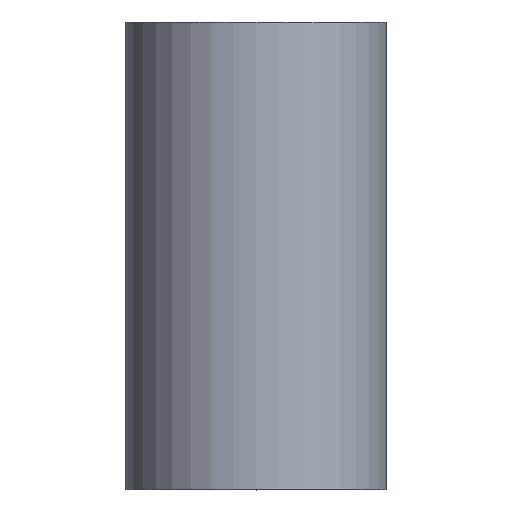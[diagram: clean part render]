
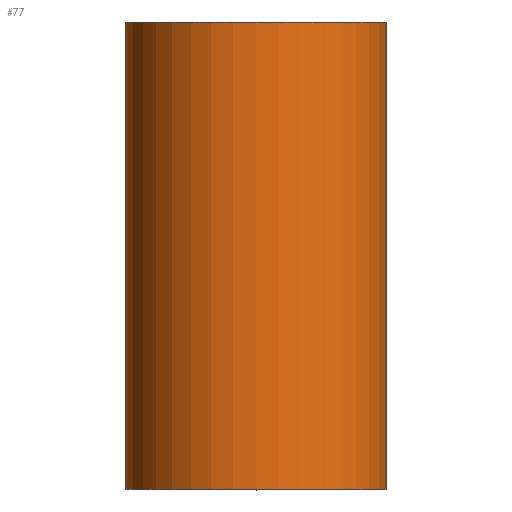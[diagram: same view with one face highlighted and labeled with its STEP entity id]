
A CAD part, top view. The second image highlights one B-rep face of the part: STEP entity #77.
In plain terms, the highlighted cylindrical face has radius 3.747 mm (diameter 7.493 mm), a partial arc.
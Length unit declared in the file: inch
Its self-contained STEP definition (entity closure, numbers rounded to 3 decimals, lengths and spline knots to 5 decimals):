
#10 = EDGE_CURVE ( 'NONE', #24, #336, #420, .T. ) ;
#24 = VERTEX_POINT ( 'NONE', #391 ) ;
#60 = DIRECTION ( 'NONE',  ( 0., 0., 1. ) ) ;
#63 = CARTESIAN_POINT ( 'NONE',  ( 0.1475, 0.528, 0.1145 ) ) ;
#77 = ADVANCED_FACE ( 'NONE', ( #211 ), #167, .T. ) ;
#87 = DIRECTION ( 'NONE',  ( 0., 0., 1. ) ) ;
#107 = VECTOR ( 'NONE', #256, 39.37008 ) ;
#108 = EDGE_CURVE ( 'NONE', #350, #113, #301, .T. ) ;
#113 = VERTEX_POINT ( 'NONE', #63 ) ;
#115 = AXIS2_PLACEMENT_3D ( 'NONE', #200, #163, #60 ) ;
#129 = CARTESIAN_POINT ( 'NONE',  ( 0.1475, 0.528, 0.1145 ) ) ;
#133 = ORIENTED_EDGE ( 'NONE', *, *, #281, .T. ) ;
#135 = ORIENTED_EDGE ( 'NONE', *, *, #303, .F. ) ;
#153 = DIRECTION ( 'NONE',  ( 0., -1., 0. ) ) ;
#162 = CARTESIAN_POINT ( 'NONE',  ( -0.1475, 0.528, 0.1145 ) ) ;
#163 = DIRECTION ( 'NONE',  ( 0., 1., 0. ) ) ;
#167 = CYLINDRICAL_SURFACE ( 'NONE', #401, 0.1475 ) ;
#178 = LINE ( 'NONE', #395, #205 ) ;
#200 = CARTESIAN_POINT ( 'NONE',  ( 0., 0.528, 0.1145 ) ) ;
#205 = VECTOR ( 'NONE', #230, 39.37008 ) ;
#211 = FACE_OUTER_BOUND ( 'NONE', #390, .T. ) ;
#230 = DIRECTION ( 'NONE',  ( 0., -1., 0. ) ) ;
#250 = ORIENTED_EDGE ( 'NONE', *, *, #108, .F. ) ;
#253 = CARTESIAN_POINT ( 'NONE',  ( 0., 0.528, 0.1145 ) ) ;
#256 = DIRECTION ( 'NONE',  ( 0., -1., 0. ) ) ;
#274 = ORIENTED_EDGE ( 'NONE', *, *, #10, .T. ) ;
#281 = EDGE_CURVE ( 'NONE', #350, #24, #178, .T. ) ;
#286 = CARTESIAN_POINT ( 'NONE',  ( 0., 0., 0.1145 ) ) ;
#291 = DIRECTION ( 'NONE',  ( 0., 1., 0. ) ) ;
#294 = DIRECTION ( 'NONE',  ( 0., 0., -1. ) ) ;
#301 = CIRCLE ( 'NONE', #115, 0.1475 ) ;
#303 = EDGE_CURVE ( 'NONE', #113, #336, #385, .T. ) ;
#336 = VERTEX_POINT ( 'NONE', #399 ) ;
#350 = VERTEX_POINT ( 'NONE', #162 ) ;
#353 = AXIS2_PLACEMENT_3D ( 'NONE', #286, #291, #87 ) ;
#385 = LINE ( 'NONE', #129, #107 ) ;
#390 = EDGE_LOOP ( 'NONE', ( #274, #135, #250, #133 ) ) ;
#391 = CARTESIAN_POINT ( 'NONE',  ( -0.1475, 0., 0.1145 ) ) ;
#395 = CARTESIAN_POINT ( 'NONE',  ( -0.1475, 0.528, 0.1145 ) ) ;
#399 = CARTESIAN_POINT ( 'NONE',  ( 0.1475, 0., 0.1145 ) ) ;
#401 = AXIS2_PLACEMENT_3D ( 'NONE', #253, #153, #294 ) ;
#420 = CIRCLE ( 'NONE', #353, 0.1475 ) ;
